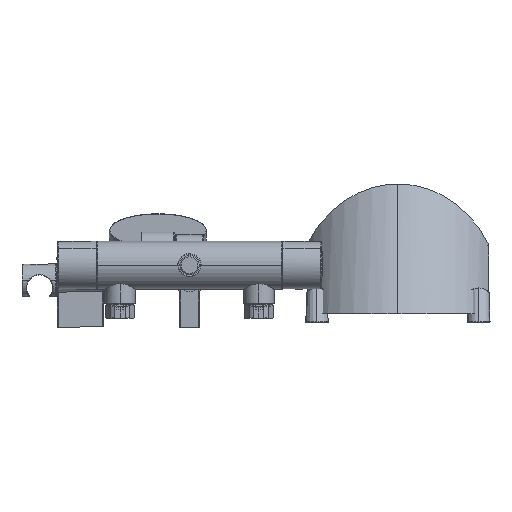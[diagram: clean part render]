
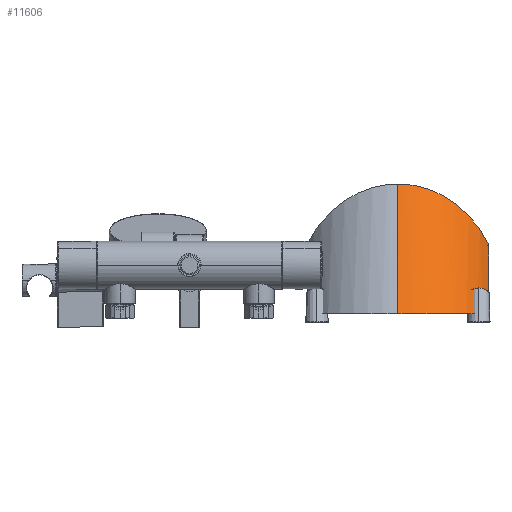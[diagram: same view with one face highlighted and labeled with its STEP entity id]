
A CAD part, front view. The second image highlights one B-rep face of the part: STEP entity #11606.
In plain terms, the highlighted cylindrical face has radius 111.144 mm (diameter 222.289 mm), a partial arc.
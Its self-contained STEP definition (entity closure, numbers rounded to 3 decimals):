
#1117 = AXIS2_PLACEMENT_3D ( 'NONE', #20735, #10346, #22462 ) ;
#1695 = CARTESIAN_POINT ( 'NONE',  ( 424.665, 205.769, 378.667 ) ) ;
#2347 = ORIENTED_EDGE ( 'NONE', *, *, #14708, .T. ) ;
#3487 = VERTEX_POINT ( 'NONE', #13231 ) ;
#3712 = CARTESIAN_POINT ( 'NONE',  ( 356.05, 194.362, 406.685 ) ) ;
#4722 = CARTESIAN_POINT ( 'NONE',  ( 344.165, 99.639, 267.393 ) ) ;
#4769 = VERTEX_POINT ( 'NONE', #16653 ) ;
#5280 =( BOUNDED_CURVE ( )  B_SPLINE_CURVE ( 3, ( #17491, #17327, #17081, #17011 ),
 .UNSPECIFIED., .F., .F. ) 
 B_SPLINE_CURVE_WITH_KNOTS ( ( 4, 4 ),
 ( 3.142, 4.224 ),
 .UNSPECIFIED. ) 
 CURVE ( )  GEOMETRIC_REPRESENTATION_ITEM ( )  RATIONAL_B_SPLINE_CURVE ( ( 1., 0.905, 0.905, 1. ) ) 
 REPRESENTATION_ITEM ( '' )  );
#5960 = CARTESIAN_POINT ( 'NONE',  ( 344.165, 185.322, 195.664 ) ) ;
#6045 =( BOUNDED_CURVE ( )  B_SPLINE_CURVE ( 3, ( #21707, #1695, #8428, #20575 ),
 .UNSPECIFIED., .F., .F. ) 
 B_SPLINE_CURVE_WITH_KNOTS ( ( 4, 4 ),
 ( 5.201, 6.176 ),
 .UNSPECIFIED. ) 
 CURVE ( )  GEOMETRIC_REPRESENTATION_ITEM ( )  RATIONAL_B_SPLINE_CURVE ( ( 1., 0.922, 0.922, 1. ) ) 
 REPRESENTATION_ITEM ( '' )  );
#6369 = CYLINDRICAL_SURFACE ( 'NONE', #14034, 111.144 ) ;
#6912 = FACE_OUTER_BOUND ( 'NONE', #16022, .T. ) ;
#7462 = CARTESIAN_POINT ( 'NONE',  ( 344.165, 93.179, 257.815 ) ) ;
#7464 = DIRECTION ( 'NONE',  ( 0., 0.559, 0.829 ) ) ;
#8292 = ORIENTED_EDGE ( 'NONE', *, *, #14817, .T. ) ;
#8428 = CARTESIAN_POINT ( 'NONE',  ( 393.483, 196.19, 402.196 ) ) ;
#10346 = DIRECTION ( 'NONE',  ( 0., 0.559, 0.829 ) ) ;
#11606 = ADVANCED_FACE ( 'NONE', ( #6912 ), #6369, .T. ) ;
#12346 = VECTOR ( 'NONE', #16261, 1000. ) ;
#12873 = VERTEX_POINT ( 'NONE', #4722 ) ;
#13231 = CARTESIAN_POINT ( 'NONE',  ( 344.165, 193.833, 407.041 ) ) ;
#13750 = CIRCLE ( 'NONE', #1117, 111.144 ) ;
#13965 = LINE ( 'NONE', #16193, #12346 ) ;
#14034 = AXIS2_PLACEMENT_3D ( 'NONE', #5960, #22023, #21891 ) ;
#14389 = VERTEX_POINT ( 'NONE', #20547 ) ;
#14571 = ORIENTED_EDGE ( 'NONE', *, *, #15767, .F. ) ;
#14708 = EDGE_CURVE ( 'NONE', #12873, #4769, #5280, .T. ) ;
#14817 = EDGE_CURVE ( 'NONE', #4769, #14389, #13965, .T. ) ;
#15274 = EDGE_CURVE ( 'NONE', #12873, #3487, #18104, .T. ) ;
#15703 = EDGE_CURVE ( 'NONE', #14389, #22815, #6045, .T. ) ;
#15767 = EDGE_CURVE ( 'NONE', #3487, #22815, #13750, .T. ) ;
#16022 = EDGE_LOOP ( 'NONE', ( #20987, #2347, #8292, #16464, #14571 ) ) ;
#16193 = CARTESIAN_POINT ( 'NONE',  ( 442.325, 142.102, 224.815 ) ) ;
#16261 = DIRECTION ( 'NONE',  ( 0., 0.559, 0.829 ) ) ;
#16464 = ORIENTED_EDGE ( 'NONE', *, *, #15703, .T. ) ;
#16653 = CARTESIAN_POINT ( 'NONE',  ( 442.325, 170.746, 267.28 ) ) ;
#17011 = CARTESIAN_POINT ( 'NONE',  ( 442.325, 170.746, 267.28 ) ) ;
#17081 = CARTESIAN_POINT ( 'NONE',  ( 422.531, 125.838, 267.352 ) ) ;
#17327 = CARTESIAN_POINT ( 'NONE',  ( 386.364, 99.639, 267.393 ) ) ;
#17491 = CARTESIAN_POINT ( 'NONE',  ( 344.165, 99.639, 267.393 ) ) ;
#18104 = LINE ( 'NONE', #7462, #19460 ) ;
#19460 = VECTOR ( 'NONE', #7464, 1000. ) ;
#20547 = CARTESIAN_POINT ( 'NONE',  ( 442.325, 220.866, 341.587 ) ) ;
#20575 = CARTESIAN_POINT ( 'NONE',  ( 356.05, 194.362, 406.685 ) ) ;
#20735 = CARTESIAN_POINT ( 'NONE',  ( 344.165, 285.976, 344.89 ) ) ;
#20987 = ORIENTED_EDGE ( 'NONE', *, *, #15274, .F. ) ;
#21707 = CARTESIAN_POINT ( 'NONE',  ( 442.325, 220.866, 341.587 ) ) ;
#21891 = DIRECTION ( 'NONE',  ( 0., -0.829, 0.559 ) ) ;
#22023 = DIRECTION ( 'NONE',  ( 0., 0.559, 0.829 ) ) ;
#22462 = DIRECTION ( 'NONE',  ( 0., -0.829, 0.559 ) ) ;
#22815 = VERTEX_POINT ( 'NONE', #3712 ) ;
